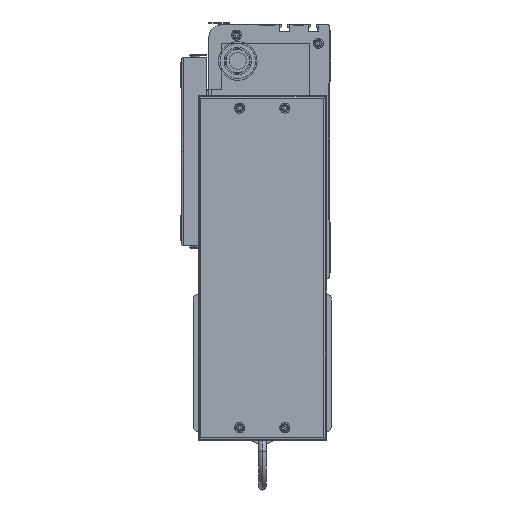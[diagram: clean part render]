
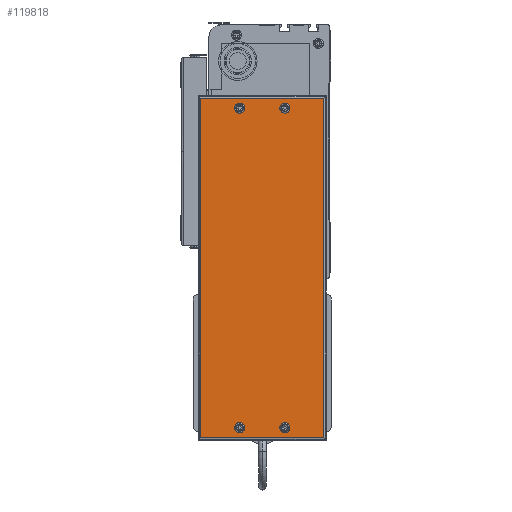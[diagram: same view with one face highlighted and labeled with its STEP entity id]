
A CAD part, left-side view. The second image highlights one B-rep face of the part: STEP entity #119818.
In plain terms, the highlighted planar face has unit normal (-1, 0, 0) as drawn and (1, 0, 0) by its records, which use the part's own axes.
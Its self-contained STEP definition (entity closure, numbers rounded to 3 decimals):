
#46663 = FACE_OUTER_BOUND ( 'NONE', #127615, .T. ) ;
#47309 = CARTESIAN_POINT ( 'NONE',  ( 50., 272., -100. ) ) ;
#47713 = CIRCLE ( 'NONE', #47815, 2.5 ) ;
#47812 = DIRECTION ( 'NONE',  ( 0., 0., -1. ) ) ;
#47813 = DIRECTION ( 'NONE',  ( 1., 0., 0. ) ) ;
#47814 = CARTESIAN_POINT ( 'NONE',  ( 50., 264., -33. ) ) ;
#47815 = AXIS2_PLACEMENT_3D ( 'NONE', #47814, #47813, #47812 ) ;
#47846 = DIRECTION ( 'NONE',  ( 0., 0., -1. ) ) ;
#47848 = AXIS2_PLACEMENT_3D ( 'NONE', #47864, #47888, #47846 ) ;
#47854 = CIRCLE ( 'NONE', #47848, 2.5 ) ;
#47864 = CARTESIAN_POINT ( 'NONE',  ( 50., 10., -33. ) ) ;
#47888 = DIRECTION ( 'NONE',  ( 1., 0., 0. ) ) ;
#54944 = FACE_BOUND ( 'NONE', #120296, .T. ) ;
#55165 = LINE ( 'NONE', #55187, #55316 ) ;
#55166 = FACE_BOUND ( 'NONE', #127297, .T. ) ;
#55186 = DIRECTION ( 'NONE',  ( 0., 0., 1. ) ) ;
#55187 = CARTESIAN_POINT ( 'NONE',  ( 50., 272., 0. ) ) ;
#55257 = FACE_BOUND ( 'NONE', #127283, .T. ) ;
#55316 = VECTOR ( 'NONE', #55186, 1000. ) ;
#55330 = FACE_BOUND ( 'NONE', #119825, .T. ) ;
#102448 = AXIS2_PLACEMENT_3D ( 'NONE', #102471, #102470, #102454 ) ;
#102454 = DIRECTION ( 'NONE',  ( 0., 0., 1. ) ) ;
#102470 = DIRECTION ( 'NONE',  ( -1., 0., 0. ) ) ;
#102471 = CARTESIAN_POINT ( 'NONE',  ( 50., 274., 0. ) ) ;
#102473 = PLANE ( 'NONE',  #102448 ) ;
#119818 = ADVANCED_FACE ( 'NONE', ( #46663, #55257, #55330, #55166, #54944 ), #102473, .F. ) ;
#119820 = ORIENTED_EDGE ( 'NONE', *, *, #120022, .F. ) ;
#119823 = VERTEX_POINT ( 'NONE', #47309 ) ;
#119825 = EDGE_LOOP ( 'NONE', ( #120082, #127356 ) ) ;
#119827 = EDGE_CURVE ( 'NONE', #119823, #127374, #55165, .T. ) ;
#120022 = EDGE_CURVE ( 'NONE', #127511, #127614, #47713, .T. ) ;
#120078 = ORIENTED_EDGE ( 'NONE', *, *, #127035, .F. ) ;
#120080 = EDGE_CURVE ( 'NONE', #127469, #127099, #47854, .T. ) ;
#120082 = ORIENTED_EDGE ( 'NONE', *, *, #120080, .F. ) ;
#120296 = EDGE_LOOP ( 'NONE', ( #119820, #127236 ) ) ;
#123143 = CIRCLE ( 'NONE', #123149, 2.5 ) ;
#123149 = AXIS2_PLACEMENT_3D ( 'NONE', #123173, #123172, #123168 ) ;
#123158 = CARTESIAN_POINT ( 'NONE',  ( 50., 272., -2. ) ) ;
#123168 = DIRECTION ( 'NONE',  ( 0., 0., -1. ) ) ;
#123172 = DIRECTION ( 'NONE',  ( 1., 0., 0. ) ) ;
#123173 = CARTESIAN_POINT ( 'NONE',  ( 50., 264., -69. ) ) ;
#123205 = DIRECTION ( 'NONE',  ( 0., 0., -1. ) ) ;
#123207 = DIRECTION ( 'NONE',  ( 1., 0., 0. ) ) ;
#123210 = AXIS2_PLACEMENT_3D ( 'NONE', #123288, #123207, #123205 ) ;
#123224 = DIRECTION ( 'NONE',  ( 0., 0., -1. ) ) ;
#123244 = CIRCLE ( 'NONE', #123289, 2.5 ) ;
#123252 = CARTESIAN_POINT ( 'NONE',  ( 50., 10., -69. ) ) ;
#123258 = DIRECTION ( 'NONE',  ( 1., 0., 0. ) ) ;
#123261 = CIRCLE ( 'NONE', #123210, 2.5 ) ;
#123288 = CARTESIAN_POINT ( 'NONE',  ( 50., 10., -33. ) ) ;
#123289 = AXIS2_PLACEMENT_3D ( 'NONE', #123252, #123258, #123224 ) ;
#123372 = CARTESIAN_POINT ( 'NONE',  ( 50., 10., -71.5 ) ) ;
#123498 = CARTESIAN_POINT ( 'NONE',  ( 50., 10., -30.5 ) ) ;
#123704 = AXIS2_PLACEMENT_3D ( 'NONE', #123857, #123854, #123851 ) ;
#123709 = CARTESIAN_POINT ( 'NONE',  ( 50., 2., -2. ) ) ;
#123851 = DIRECTION ( 'NONE',  ( 0., 0., -1. ) ) ;
#123854 = DIRECTION ( 'NONE',  ( 1., 0., 0. ) ) ;
#123857 = CARTESIAN_POINT ( 'NONE',  ( 50., 10., -69. ) ) ;
#123866 = CIRCLE ( 'NONE', #123704, 2.5 ) ;
#123925 = DIRECTION ( 'NONE',  ( 0., -1., 0. ) ) ;
#123926 = VECTOR ( 'NONE', #123925, 1000. ) ;
#123928 = CARTESIAN_POINT ( 'NONE',  ( 50., 274., -2. ) ) ;
#123958 = DIRECTION ( 'NONE',  ( 0., 0., -1. ) ) ;
#123960 = VECTOR ( 'NONE', #123958, 1000. ) ;
#123961 = CARTESIAN_POINT ( 'NONE',  ( 50., 2., 0. ) ) ;
#123962 = LINE ( 'NONE', #123961, #123960 ) ;
#123968 = DIRECTION ( 'NONE',  ( 0., 1., 0. ) ) ;
#123970 = VECTOR ( 'NONE', #123968, 1000. ) ;
#123971 = CARTESIAN_POINT ( 'NONE',  ( 50., 274., -100. ) ) ;
#123985 = LINE ( 'NONE', #123971, #123970 ) ;
#123988 = LINE ( 'NONE', #123928, #123926 ) ;
#123992 = DIRECTION ( 'NONE',  ( 0., 0., -1. ) ) ;
#123993 = DIRECTION ( 'NONE',  ( 1., 0., 0. ) ) ;
#124022 = CIRCLE ( 'NONE', #124071, 2.5 ) ;
#124040 = CARTESIAN_POINT ( 'NONE',  ( 50., 264., -69. ) ) ;
#124071 = AXIS2_PLACEMENT_3D ( 'NONE', #124040, #123993, #123992 ) ;
#124237 = CARTESIAN_POINT ( 'NONE',  ( 50., 10., -35.5 ) ) ;
#124293 = DIRECTION ( 'NONE',  ( 0., 0., -1. ) ) ;
#124294 = DIRECTION ( 'NONE',  ( 1., 0., 0. ) ) ;
#124298 = CARTESIAN_POINT ( 'NONE',  ( 50., 264., -33. ) ) ;
#124319 = CARTESIAN_POINT ( 'NONE',  ( 50., 10., -66.5 ) ) ;
#124320 = CARTESIAN_POINT ( 'NONE',  ( 50., 264., -35.5 ) ) ;
#124338 = AXIS2_PLACEMENT_3D ( 'NONE', #124298, #124294, #124293 ) ;
#124351 = CIRCLE ( 'NONE', #124338, 2.5 ) ;
#124526 = CARTESIAN_POINT ( 'NONE',  ( 50., 264., -30.5 ) ) ;
#124531 = CARTESIAN_POINT ( 'NONE',  ( 50., 2., -100. ) ) ;
#124548 = CARTESIAN_POINT ( 'NONE',  ( 50., 264., -66.5 ) ) ;
#124586 = CARTESIAN_POINT ( 'NONE',  ( 50., 264., -71.5 ) ) ;
#127035 = EDGE_CURVE ( 'NONE', #127551, #127068, #123244, .T. ) ;
#127044 = EDGE_CURVE ( 'NONE', #127099, #127469, #123261, .T. ) ;
#127068 = VERTEX_POINT ( 'NONE', #123372 ) ;
#127099 = VERTEX_POINT ( 'NONE', #123498 ) ;
#127236 = ORIENTED_EDGE ( 'NONE', *, *, #127512, .F. ) ;
#127253 = VERTEX_POINT ( 'NONE', #123709 ) ;
#127283 = EDGE_LOOP ( 'NONE', ( #127286, #120078 ) ) ;
#127286 = ORIENTED_EDGE ( 'NONE', *, *, #127289, .F. ) ;
#127289 = EDGE_CURVE ( 'NONE', #127068, #127551, #123866, .T. ) ;
#127297 = EDGE_LOOP ( 'NONE', ( #127379, #127383 ) ) ;
#127318 = EDGE_CURVE ( 'NONE', #127618, #119823, #123985, .T. ) ;
#127319 = ORIENTED_EDGE ( 'NONE', *, *, #127358, .T. ) ;
#127323 = EDGE_CURVE ( 'NONE', #127253, #127618, #123962, .T. ) ;
#127356 = ORIENTED_EDGE ( 'NONE', *, *, #127044, .F. ) ;
#127358 = EDGE_CURVE ( 'NONE', #127374, #127253, #123988, .T. ) ;
#127371 = ORIENTED_EDGE ( 'NONE', *, *, #127323, .T. ) ;
#127374 = VERTEX_POINT ( 'NONE', #123158 ) ;
#127379 = ORIENTED_EDGE ( 'NONE', *, *, #127382, .F. ) ;
#127382 = EDGE_CURVE ( 'NONE', #127685, #127599, #123143, .T. ) ;
#127383 = ORIENTED_EDGE ( 'NONE', *, *, #127412, .F. ) ;
#127395 = ORIENTED_EDGE ( 'NONE', *, *, #127318, .T. ) ;
#127412 = EDGE_CURVE ( 'NONE', #127599, #127685, #124022, .T. ) ;
#127469 = VERTEX_POINT ( 'NONE', #124237 ) ;
#127511 = VERTEX_POINT ( 'NONE', #124320 ) ;
#127512 = EDGE_CURVE ( 'NONE', #127614, #127511, #124351, .T. ) ;
#127551 = VERTEX_POINT ( 'NONE', #124319 ) ;
#127599 = VERTEX_POINT ( 'NONE', #124548 ) ;
#127614 = VERTEX_POINT ( 'NONE', #124526 ) ;
#127615 = EDGE_LOOP ( 'NONE', ( #127319, #127371, #127395, #127625 ) ) ;
#127618 = VERTEX_POINT ( 'NONE', #124531 ) ;
#127625 = ORIENTED_EDGE ( 'NONE', *, *, #119827, .T. ) ;
#127685 = VERTEX_POINT ( 'NONE', #124586 ) ;
